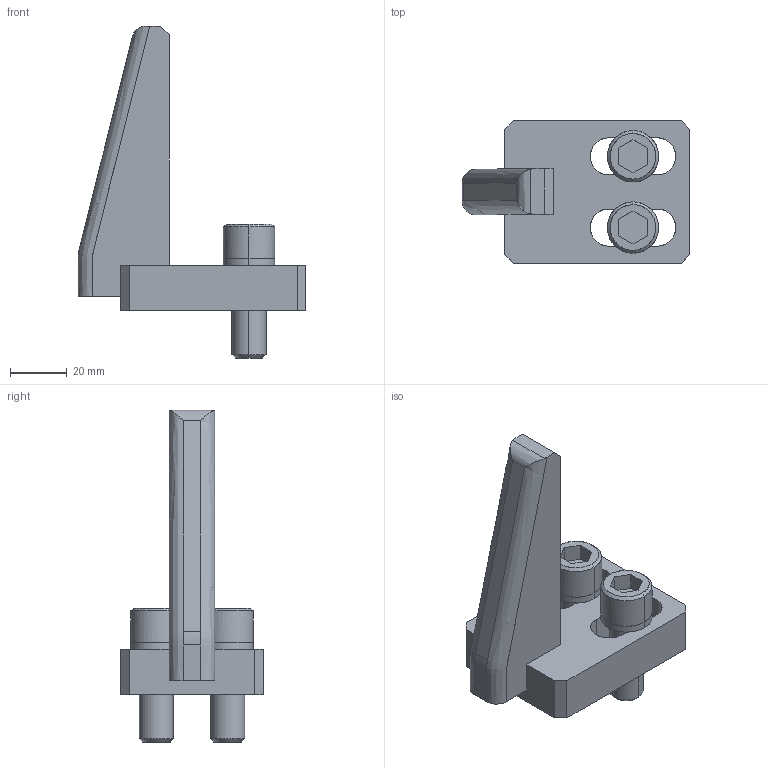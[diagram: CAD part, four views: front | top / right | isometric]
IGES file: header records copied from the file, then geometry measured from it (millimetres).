
Global section: file name: E:\UnigraphicsGraphicData\MISUMI_PRESS-PARTS\IGES\3d_ngga-100-20-20_01474_r00.igs; native system: NX V5.0; preprocessor: UGS NX IGES V5.0; author: MISUMI; date: 20110105.162027; units: millimetre
Bounding box: 80 x 50 x 116.5 mm (x, y, z)
Surface area: 25887.6 mm2 (no closed solid volume)
Topology: 0 solids, 0 shells, 103 faces, 660 edges, 660 vertices
Faces by surface type: bspline 103
